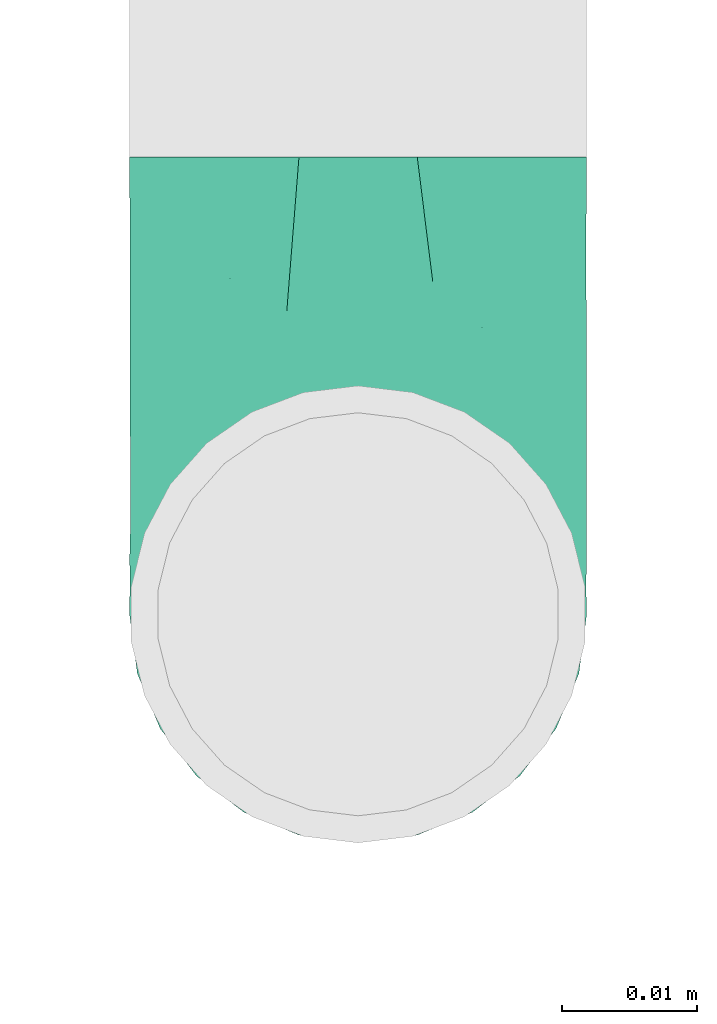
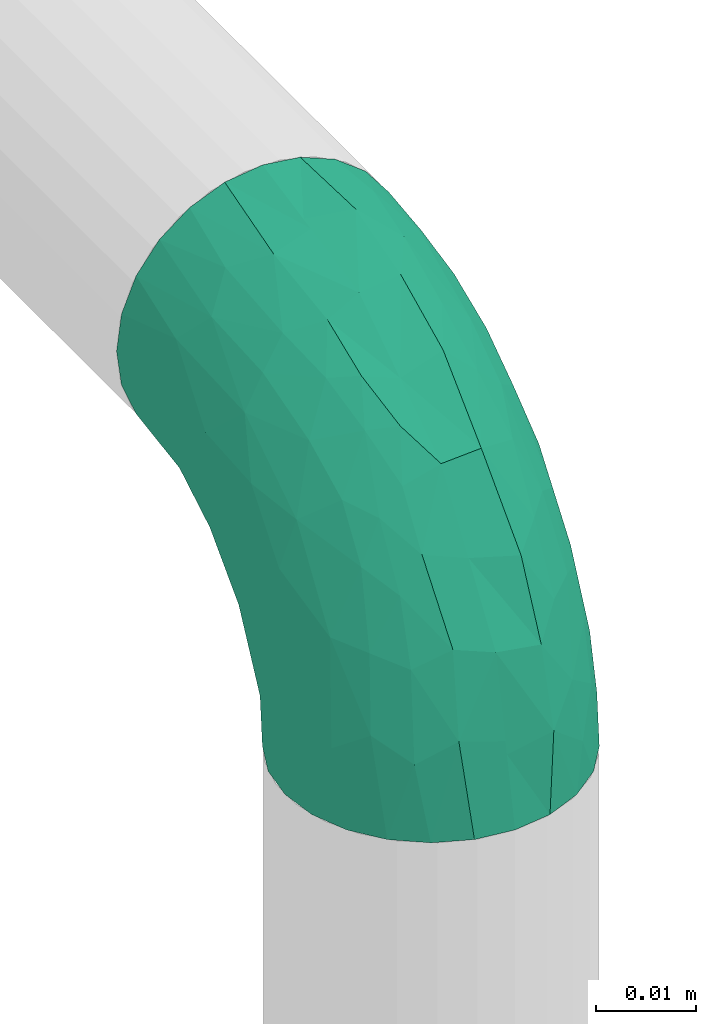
# One storey, part 23 of 94: 1 flow fitting.
"""IFC2X3 building model written with IfcOpenShell, lengths in millimetres."""

from ifc_helpers import new_model, entity, si_unit, converted_unit, derived_unit, direction, frame, origin_with_axes, place, context, subcontext, project, spatial, open_shell, surface_model, source, transform, mapped, type_object, element, save


model = new_model("IFC2X3")

# Units and contexts
model_context = context("Model", 3, precision=0.01, world=frame((0.0, 4.29681676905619e-09, 0.0)), true_north=direction((4.01073788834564e-13, 1.0)))
plan_context = context("Plan", 3, precision=0.01, world=frame((0.0, 4.29681676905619e-09, 0.0)), true_north=direction((4.01073788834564e-13, 1.0)))
body_context = subcontext(model_context, "Body", "Model", "MODEL_VIEW")
ifc_project = project(units=[converted_unit("PLANEANGLEUNIT", "DEGREE", entity("IfcPositiveLengthMeasure", 0.0174532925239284), si_unit("PLANEANGLEUNIT", "RADIAN"), dimensions=[0, 0, 0, 0, 0, 0, 0]), si_unit("AREAUNIT", "SQUARE_METRE"), si_unit("LENGTHUNIT", "METRE", prefix="MILLI"), si_unit("MASSUNIT", "GRAM", prefix="KILO"), si_unit("POWERUNIT", "WATT"), si_unit("PRESSUREUNIT", "PASCAL", prefix="KILO"), si_unit("FORCEUNIT", "NEWTON", prefix="KILO"), si_unit("ELECTRICVOLTAGEUNIT", "VOLT"), si_unit("ELECTRICCURRENTUNIT", "AMPERE"), si_unit("THERMODYNAMICTEMPERATUREUNIT", "DEGREE_CELSIUS"), si_unit("TIMEUNIT", "SECOND"), si_unit("VOLUMEUNIT", "CUBIC_METRE"), derived_unit("LINEARVELOCITYUNIT", [(si_unit("LENGTHUNIT", "METRE"), 1), (si_unit("TIMEUNIT", "SECOND"), -1)]), derived_unit("VOLUMETRICFLOWRATEUNIT", [(si_unit("VOLUMEUNIT", "CUBIC_METRE"), 1), (si_unit("TIMEUNIT", "SECOND"), -1)]), derived_unit("THERMALTRANSMITTANCEUNIT", [(si_unit("POWERUNIT", "WATT"), 1), (si_unit("THERMODYNAMICTEMPERATUREUNIT", "KELVIN"), -1), (si_unit("AREAUNIT", "SQUARE_METRE"), -1)]), derived_unit("SOUNDPRESSUREUNIT", [(si_unit("PRESSUREUNIT", "PASCAL"), 1)])], contexts=[model_context, plan_context])

# Site, building, storey
site_placement = place(None, frame((0.0, -4.29681676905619e-09, 0.0), z_axis=(0.0, 0.0, 1.0), x_axis=(1.0, 0.0, 0.0)))
site = spatial("IfcSite", under=ifc_project, at=site_placement, CompositionType="ELEMENT")
building_placement = place(site_placement, frame((0.0, 4.29681676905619e-09, 0.0), z_axis=(0.0, 0.0, 1.0), x_axis=(1.0, 0.0, 0.0)))
building = spatial("IfcBuilding", under=site, at=building_placement, Name="mc-building", CompositionType="ELEMENT")
storey_placement = place(building_placement, frame((0.0, 0.0, 210900.0), z_axis=(0.0, 0.0, 1.0), x_axis=(1.0, 0.0, 0.0)))
storey = spatial("IfcBuildingStorey", under=building, at=storey_placement, Name="Nivå F", CompositionType="ELEMENT", Elevation=210900.0)

# Flow fitting
pipe_fitting_type = type_object("IfcPipeFittingType", Name="magi_pipe_fe_elbow_short_001", PredefinedType="BEND")
shared_shape = source(origin_with_axes(), body_context, "Body", "SurfaceModel", [
    surface_model("IfcShellBasedSurfaceModel", [(-33.8, 8.45, -14.63583), (-33.8, 4.37404, -16.32415), (-33.8, 11.9501, -11.9501), (-33.8, -11.9501, -11.9501), (-33.8, -14.63583, -8.45), (-33.8, -8.45, -14.63583), (-33.8, 0.0, -16.9), (-33.8, -4.37404, -16.32415), (-33.8, -4.37404, 16.32415), (-33.8, 0.0, 16.9), (-33.8, -8.45, 14.63583), (-33.8, 16.32415, -4.37404), (-33.8, 14.63583, -8.45), (-33.8, -16.32415, -4.37404), (-33.8, -16.9, 0.0), (-33.8, -16.32415, 4.37404), (-33.8, 11.9501, 11.9501), (-33.8, 14.63583, 8.45), (-33.8, 16.32415, 4.37404), (-33.8, 4.37404, 16.32415), (-33.8, 8.45, 14.63583), (-33.8, -14.63583, 8.45), (-33.8, -11.9501, 11.9501), (-33.8, 16.9, 0.0), (-11.9501, 33.8, -11.9501), (0.0, 33.8, -16.9), (-4.37404, 33.8, -16.32415), (-8.45, 33.8, -14.63583), (-14.63583, 33.8, -8.45), (-16.32415, 33.8, -4.37404), (14.63583, 33.8, -8.45), (8.45, 33.8, 14.63583), (16.32415, 33.8, -4.37404), (8.45, 33.8, -14.63583), (11.9501, 33.8, -11.9501), (4.37404, 33.8, -16.32415), (16.32415, 33.8, 4.37404), (16.9, 33.8, 0.0), (-11.9501, 33.8, 11.9501), (-16.32415, 33.8, 4.37404), (-14.63583, 33.8, 8.45), (-8.45, 33.8, 14.63583), (-4.37404, 33.8, 16.32415), (11.9501, 33.8, 11.9501), (14.63583, 33.8, 8.45), (0.0, 33.8, 16.9), (4.37404, 33.8, 16.32415), (-16.9, 33.8, 0.0), (-24.79389, -13.12945, 9.48721), (-22.19287, -9.75018, 12.59315), (-24.09897, -14.97035, 0.0), (-14.93934, -10.76256, 8.5297), (-22.46095, -14.75051, 5.27077), (14.75051, 22.46094, 5.27077), (11.9251, 13.23888, 4.33236), (13.04069, 14.39795, 0.0), (7.71387, 13.68847, 11.55891), (9.75018, 22.19287, 12.59315), (4.10169, 13.0571, 14.04018), (-24.84007, -6.39063, 15.2048), (-25.81779, -2.23879, 16.61097), (-23.66549, 2.59054, 16.87119), (-26.50418, 14.06512, 11.08152), (-24.21253, 17.66365, 7.72657), (-29.58514, 15.86957, 7.00283), (-6.17382, -7.5455, 0.0), (-13.23888, -11.9251, 4.33236), (-14.39795, -13.04069, 0.0), (-17.81434, 18.87373, 11.97104), (-6.30846, 29.15138, 15.82987), (-2.31622, 25.28002, 16.85849), (-29.23923, 10.23435, 13.77053), (-1.45439, -2.85688, 7.61475), (-0.28326, 0.34872, 10.09509), (-5.74484, -4.04709, 10.4122), (-4.41137, 11.31918, 16.59407), (-8.39727, 3.10034, 15.7812), (-1.72649, 9.1306, 15.53089), (-17.39909, 24.75344, 7.64977), (-26.19233, 20.0512, 0.0), (-28.14518, 17.29657, 4.25857), (-26.05147, 6.6281, 15.96447), (-5.87354, 16.61944, 16.86968), (-12.51807, 12.51807, 16.48937), (-10.06312, 7.38516, 16.81295), (-3.01882, 3.01882, 13.81718), (-13.0571, -4.10169, 14.04018), (-16.82553, -0.15166, 16.38038), (10.76256, 14.93934, 8.5297), (13.12945, 24.79389, 9.48721), (6.39063, 24.84007, 15.2048), (2.23879, 25.81779, 16.61097), (-13.68847, -7.71387, 11.55891), (14.97035, 24.09897, 0.0), (-7.30894, 22.89991, 16.09489), (-10.67958, 26.17414, 14.008), (-12.78295, 18.26924, 15.06066), (-13.88562, 22.45231, 12.93244), (-18.04944, 15.16501, 14.04434), (-23.11658, 20.08178, 4.02986), (-21.84989, 21.84989, 0.0), (-18.55817, 25.48277, 3.93065), (-13.95142, 26.94732, 11.03289), (-18.57098, 7.23906, 16.59756), (-16.58335, 4.14122, 16.89279), (-17.96666, 11.46709, 15.63151), (-9.84453, 17.54304, 16.18938), (0.15166, 16.82553, 16.38038), (-23.27207, 11.47201, 14.23154), (3.84842, 5.86994, 10.70473), (-8.0212, -7.54413, 7.93275), (1.00345, -2.19508, 4.57414), (5.13203, 3.01004, 5.90201), (5.24161, 1.7543, 2.53265), (8.70457, 7.04947, 3.99182), (-20.0512, 26.19233, 0.0), (8.4852, 8.76699, 7.09296), (-4.55488, -6.72064, 4.90681), (2.05031, -2.05031, 0.0), (7.5455, 6.17382, 0.0), (-26.75399, 2.1369, -16.845), (-14.61995, 24.73803, -11.27736), (-28.45274, -13.45335, -9.81895), (-26.00469, 6.63555, -15.96645), (-23.06726, 20.04573, -4.26202), (-13.80647, -4.26506, -14.17873), (-14.67501, -0.21081, -16.07388), (-6.7902, -0.2828, -13.8478), (-24.53586, 11.08096, -14.13417), (-26.72048, 14.00837, -11.05776), (10.0967, 24.44989, -12.75976), (5.83237, 21.40218, -15.03047), (6.66249, 28.54238, -15.38093), (-20.38182, 15.48705, -12.74596), (12.53268, 21.23441, -9.15363), (12.54494, 15.67504, -5.54878), (9.7522, 12.89279, -8.66343), (-15.65186, 19.64213, -13.01327), (-12.03528, 20.66498, -14.67665), (-15.61907, 15.61906, -14.83879), (-25.56551, -15.26206, 0.0), (-24.65452, -15.12934, -5.50955), (13.45335, 28.45274, -9.81895), (15.12934, 24.65452, -5.50955), (-7.35442, -8.31014, -5.65563), (-15.67504, -12.54494, -5.54878), (-24.44989, -10.0967, -12.75976), (0.16522, 0.41303, -9.71728), (-5.70658, -5.33066, -8.89288), (-5.13869, -2.37198, -11.53565), (-21.23441, -12.53268, -9.15363), (0.71146, 7.93863, -14.09382), (0.21081, 14.67501, -16.07388), (3.49291, 14.42772, -14.76381), (-24.89911, -2.13088, -16.591), (-28.54238, -6.66249, -15.38093), (-18.44386, -7.71663, -13.26957), (2.13088, 24.89911, -16.591), (-28.64342, 17.44413, -2.89318), (1.70017, -1.28722, -5.09504), (-16.57067, 26.81947, -7.36596), (-17.69055, 27.4263, -3.76405), (-12.89279, -9.7522, -8.66343), (-5.96611, 5.96611, -15.95814), (-20.53709, 20.09345, -8.28985), (-2.1369, 26.75399, -16.845), (-6.89872, 24.58781, -16.02578), (-10.60739, 26.53157, -13.98044), (-21.40218, -5.83237, -15.03047), (2.93192, 5.89627, -11.55917), (6.89393, 12.61842, -11.82233), (5.58056, 5.95325, -8.79455), (-3.99512, 18.61798, -16.89635), (8.31014, 7.35442, -5.65563), (-9.1383, 9.86148, -16.89041), (-9.99983, 16.02119, -16.39699), (-16.68576, 9.78031, -16.34199), (-27.01915, 16.61158, -7.12979), (15.26206, 25.56551, 0.0), (-18.61798, 3.99512, -16.89635), (-19.37495, 27.82495, 0.0), (-12.61842, -6.89393, -11.82233), (-18.84705, 19.14018, -10.96545)], [open_shell([[[0, 1, 2]], [[3, 4, 5]], [[6, 7, 5]], [[8, 9, 10]], [[1, 6, 2]], [[11, 12, 2]], [[4, 2, 6]], [[2, 13, 10]], [[5, 4, 6]], [[2, 4, 13]], [[14, 15, 13]], [[11, 2, 16]], [[11, 17, 18]], [[11, 16, 17]], [[19, 20, 16]], [[16, 2, 10]], [[19, 16, 10]], [[21, 22, 15]], [[22, 13, 15]], [[22, 10, 13]], [[10, 9, 19]], [[11, 18, 23]], [[24, 25, 26]], [[24, 26, 27]], [[24, 28, 29]], [[25, 24, 30]], [[31, 32, 24]], [[33, 30, 34]], [[33, 35, 25]], [[25, 30, 33]], [[32, 30, 24]], [[32, 36, 37]], [[38, 24, 29]], [[39, 40, 29]], [[40, 38, 29]], [[38, 41, 42]], [[38, 31, 24]], [[31, 38, 42]], [[36, 43, 44]], [[36, 32, 43]], [[31, 45, 46]], [[32, 31, 43]], [[42, 45, 31]], [[39, 29, 47]], [[22, 48, 49]], [[15, 14, 50]], [[51, 48, 52]], [[53, 54, 55]], [[48, 22, 21]], [[15, 52, 21]], [[56, 57, 58]], [[49, 10, 22]], [[49, 59, 10]], [[9, 60, 61]], [[62, 63, 64]], [[65, 66, 67]], [[57, 43, 31]], [[62, 68, 63]], [[42, 69, 70]], [[20, 71, 16]], [[8, 60, 9]], [[72, 73, 74]], [[75, 76, 77]], [[16, 62, 17]], [[40, 39, 78]], [[79, 23, 80]], [[64, 18, 17]], [[9, 61, 19]], [[19, 81, 20]], [[82, 83, 84]], [[74, 85, 86]], [[59, 86, 87]], [[88, 89, 57]], [[90, 31, 46]], [[44, 53, 36]], [[46, 45, 91]], [[54, 53, 88]], [[44, 89, 53]], [[92, 86, 49]], [[89, 44, 43]], [[10, 59, 8]], [[53, 55, 93]], [[93, 36, 53]], [[66, 52, 67]], [[94, 82, 70]], [[95, 96, 94]], [[97, 98, 96]], [[79, 99, 100]], [[41, 38, 95]], [[101, 100, 99]], [[68, 78, 63]], [[42, 41, 69]], [[23, 18, 80]], [[95, 94, 69]], [[78, 101, 99]], [[38, 102, 95]], [[70, 45, 42]], [[97, 95, 102]], [[15, 50, 52]], [[90, 57, 31]], [[57, 90, 58]], [[81, 19, 61]], [[103, 104, 84]], [[105, 81, 103]], [[38, 40, 102]], [[106, 96, 83]], [[94, 106, 82]], [[91, 70, 107]], [[71, 62, 16]], [[62, 108, 98]], [[86, 59, 49]], [[67, 52, 50]], [[60, 59, 87]], [[92, 49, 51]], [[86, 85, 76]], [[91, 90, 46]], [[37, 36, 93]], [[107, 77, 58]], [[107, 58, 90]], [[58, 85, 109]], [[110, 74, 92]], [[72, 74, 110]], [[66, 51, 52]], [[72, 111, 112]], [[113, 114, 112]], [[56, 88, 57]], [[52, 48, 21]], [[49, 48, 51]], [[57, 89, 43]], [[53, 89, 88]], [[103, 81, 61]], [[71, 81, 108]], [[18, 64, 80]], [[63, 78, 99]], [[47, 115, 101]], [[101, 115, 100]], [[40, 78, 102]], [[68, 102, 78]], [[97, 96, 95]], [[105, 98, 108]], [[103, 84, 83]], [[107, 70, 82]], [[76, 84, 87]], [[82, 84, 75]], [[70, 91, 45]], [[90, 91, 107]], [[59, 60, 8]], [[61, 60, 87]], [[73, 85, 74]], [[109, 112, 116]], [[103, 61, 104]], [[105, 103, 83]], [[96, 105, 83]], [[81, 105, 108]], [[96, 98, 105]], [[62, 98, 68]], [[61, 87, 104]], [[87, 84, 104]], [[86, 76, 87]], [[77, 76, 85]], [[58, 77, 85]], [[75, 77, 107]], [[82, 75, 107]], [[76, 75, 84]], [[81, 71, 20]], [[62, 71, 108]], [[95, 69, 41]], [[70, 69, 94]], [[62, 64, 17]], [[80, 63, 99]], [[63, 80, 64]], [[80, 99, 79]], [[66, 65, 117]], [[110, 66, 117]], [[112, 114, 116]], [[118, 117, 65]], [[110, 92, 51]], [[112, 111, 113]], [[119, 55, 54]], [[74, 86, 92]], [[58, 109, 56]], [[116, 56, 109]], [[66, 110, 51]], [[72, 110, 117]], [[111, 72, 117]], [[73, 112, 109]], [[117, 118, 111]], [[113, 111, 118]], [[118, 119, 113]], [[114, 119, 54]], [[119, 114, 113]], [[116, 54, 88]], [[54, 116, 114]], [[116, 88, 56]], [[112, 73, 72]], [[85, 73, 109]], [[78, 39, 101]], [[47, 101, 39]], [[102, 68, 97]], [[97, 68, 98]], [[82, 106, 83]], [[94, 96, 106]], [[1, 120, 6]], [[28, 24, 121]], [[3, 122, 4]], [[0, 123, 1]], [[100, 124, 79]], [[125, 126, 127]], [[128, 2, 129]], [[130, 131, 132]], [[128, 129, 133]], [[134, 135, 136]], [[137, 138, 139]], [[128, 0, 2]], [[67, 140, 141]], [[134, 142, 143]], [[141, 13, 4]], [[144, 65, 145]], [[146, 3, 5]], [[147, 148, 149]], [[145, 141, 150]], [[151, 152, 153]], [[154, 7, 6]], [[5, 155, 146]], [[150, 146, 156]], [[155, 5, 7]], [[143, 135, 134]], [[35, 157, 25]], [[23, 79, 158]], [[148, 159, 144]], [[160, 161, 29]], [[145, 162, 144]], [[163, 152, 151]], [[29, 28, 160]], [[121, 164, 160]], [[33, 34, 130]], [[25, 165, 26]], [[26, 165, 166]], [[142, 34, 30]], [[24, 27, 167]], [[124, 161, 164]], [[157, 35, 132]], [[155, 154, 168]], [[123, 0, 128]], [[169, 170, 171]], [[172, 157, 152]], [[26, 166, 27]], [[132, 35, 33]], [[142, 130, 34]], [[168, 154, 126]], [[136, 135, 173]], [[133, 137, 139]], [[2, 12, 129]], [[170, 131, 130]], [[30, 32, 143]], [[172, 174, 175]], [[176, 123, 128]], [[158, 177, 11]], [[135, 55, 119]], [[167, 27, 166]], [[175, 166, 172]], [[137, 167, 138]], [[122, 141, 4]], [[140, 14, 13]], [[32, 37, 178]], [[170, 130, 134]], [[152, 157, 131]], [[165, 157, 172]], [[153, 170, 151]], [[152, 163, 174]], [[168, 125, 156]], [[122, 146, 150]], [[120, 154, 6]], [[179, 174, 126]], [[179, 126, 154]], [[126, 163, 127]], [[162, 145, 150]], [[140, 13, 141]], [[32, 178, 143]], [[55, 143, 178]], [[177, 129, 12]], [[128, 133, 139]], [[176, 128, 139]], [[120, 123, 179]], [[121, 160, 28]], [[161, 100, 180]], [[166, 175, 138]], [[121, 24, 167]], [[161, 47, 29]], [[79, 124, 158]], [[124, 164, 177]], [[161, 124, 100]], [[136, 171, 170]], [[127, 163, 151]], [[147, 171, 159]], [[148, 144, 162]], [[127, 151, 169]], [[127, 181, 125]], [[129, 177, 164]], [[12, 11, 177]], [[159, 65, 144]], [[67, 141, 145]], [[143, 55, 135]], [[135, 119, 173]], [[123, 120, 1]], [[154, 120, 179]], [[157, 165, 25]], [[166, 165, 172]], [[172, 152, 174]], [[176, 139, 175]], [[126, 174, 163]], [[176, 174, 179]], [[174, 176, 175]], [[123, 176, 179]], [[150, 181, 162]], [[127, 149, 181]], [[181, 148, 162]], [[159, 148, 147]], [[171, 136, 173]], [[170, 134, 136]], [[159, 171, 173]], [[171, 147, 169]], [[169, 147, 149]], [[151, 170, 169]], [[164, 182, 129]], [[182, 121, 137]], [[181, 149, 148]], [[169, 149, 127]], [[182, 137, 133]], [[167, 137, 121]], [[166, 138, 167]], [[175, 139, 138]], [[129, 182, 133]], [[121, 182, 164]], [[161, 160, 164]], [[47, 161, 180]], [[177, 158, 124]], [[23, 158, 11]], [[130, 132, 33]], [[157, 132, 131]], [[143, 142, 30]], [[130, 142, 134]], [[154, 155, 7]], [[146, 155, 168]], [[146, 122, 3]], [[141, 122, 150]], [[152, 131, 153]], [[159, 119, 118]], [[67, 145, 65]], [[170, 153, 131]], [[119, 159, 173]], [[159, 118, 65]], [[156, 125, 181]], [[126, 125, 168]], [[150, 156, 181]], [[168, 156, 146]]])]),
])
flow_fitting_placement = place(storey_placement, frame((716000.0, 435400.95076, 2575.448), z_axis=(-1.0, 0.0, 0.0), x_axis=(0.0, 0.0, 1.0)))
element("IfcFlowFitting", 1, at=flow_fitting_placement, inside=storey, type_object=pipe_fitting_type, Name="magi_pipe_fe_elbow_short_001", context=body_context, shape_type="MappedRepresentation", body=[
    mapped(shared_shape, transform((0.0, 0.0, 0.0), scale=1.0)),
])

save(model, "model.ifc")
